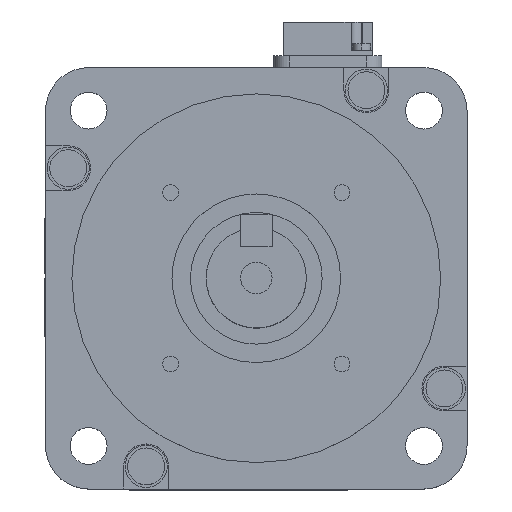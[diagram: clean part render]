
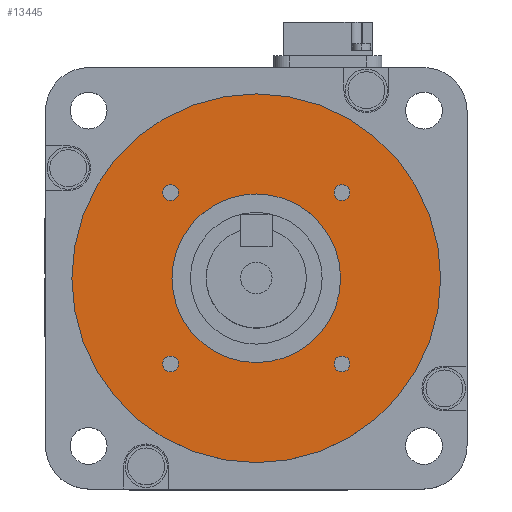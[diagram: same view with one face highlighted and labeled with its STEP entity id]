
A CAD part, top view. The second image highlights one B-rep face of the part: STEP entity #13445.
In plain terms, the highlighted planar face has unit normal (0, 0, 1).
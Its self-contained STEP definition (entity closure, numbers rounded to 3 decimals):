
#2191 = CARTESIAN_POINT ( 'NONE',  ( -14.763, -16.263, 3. ) ) ;
#2192 = DIRECTION ( 'NONE',  ( -1., 0., 0. ) ) ;
#2193 = DIRECTION ( 'NONE',  ( 0., 0., 1. ) ) ;
#2194 = CARTESIAN_POINT ( 'NONE',  ( -16.263, -16.263, 3. ) ) ;
#2195 = AXIS2_PLACEMENT_3D ( 'NONE', #2194, #2193, #2192 ) ;
#2196 = CIRCLE ( 'NONE', #2195, 1.5 ) ;
#2197 = CARTESIAN_POINT ( 'NONE',  ( -17.763, -16.263, 3. ) ) ;
#2219 = CARTESIAN_POINT ( 'NONE',  ( 17.763, -16.263, 3. ) ) ;
#2220 = DIRECTION ( 'NONE',  ( 0., -1., 0. ) ) ;
#2221 = DIRECTION ( 'NONE',  ( 0., 0., 1. ) ) ;
#2222 = CARTESIAN_POINT ( 'NONE',  ( 16.263, -16.263, 3. ) ) ;
#2223 = AXIS2_PLACEMENT_3D ( 'NONE', #2222, #2221, #2220 ) ;
#2224 = CIRCLE ( 'NONE', #2223, 1.5 ) ;
#2225 = CARTESIAN_POINT ( 'NONE',  ( 14.763, -16.263, 3. ) ) ;
#2271 = DIRECTION ( 'NONE',  ( 1., 0., 0. ) ) ;
#2272 = DIRECTION ( 'NONE',  ( 0., 0., 1. ) ) ;
#2273 = CARTESIAN_POINT ( 'NONE',  ( 16.263, 16.263, 3. ) ) ;
#2274 = AXIS2_PLACEMENT_3D ( 'NONE', #2273, #2272, #2271 ) ;
#2275 = CIRCLE ( 'NONE', #2274, 1.5 ) ;
#2276 = CARTESIAN_POINT ( 'NONE',  ( 17.763, 16.263, 3. ) ) ;
#2277 = CARTESIAN_POINT ( 'NONE',  ( 14.763, 16.263, 3. ) ) ;
#2306 = CARTESIAN_POINT ( 'NONE',  ( -14.763, 16.263, 3. ) ) ;
#2307 = DIRECTION ( 'NONE',  ( 0., 1., 0. ) ) ;
#2308 = DIRECTION ( 'NONE',  ( 0., 0., 1. ) ) ;
#2309 = CARTESIAN_POINT ( 'NONE',  ( -16.263, 16.263, 3. ) ) ;
#2310 = AXIS2_PLACEMENT_3D ( 'NONE', #2309, #2308, #2307 ) ;
#2311 = CIRCLE ( 'NONE', #2310, 1.5 ) ;
#2312 = CARTESIAN_POINT ( 'NONE',  ( -17.763, 16.263, 3. ) ) ;
#2497 = CARTESIAN_POINT ( 'NONE',  ( 35., 0., 3. ) ) ;
#2498 = CARTESIAN_POINT ( 'NONE',  ( -35., 0., 3. ) ) ;
#2499 = DIRECTION ( 'NONE',  ( -1., 0., 0. ) ) ;
#2500 = DIRECTION ( 'NONE',  ( 0., 0., -1. ) ) ;
#2501 = CARTESIAN_POINT ( 'NONE',  ( 0., 0., 3. ) ) ;
#2502 = AXIS2_PLACEMENT_3D ( 'NONE', #2501, #2500, #2499 ) ;
#2503 = CIRCLE ( 'NONE', #2502, 35. ) ;
#2527 = DIRECTION ( 'NONE',  ( -1., 0., 0. ) ) ;
#2528 = DIRECTION ( 'NONE',  ( 0., 0., -1. ) ) ;
#2529 = AXIS2_PLACEMENT_3D ( 'NONE', #2536, #2528, #2527 ) ;
#2530 = CIRCLE ( 'NONE', #2529, 16. ) ;
#2536 = CARTESIAN_POINT ( 'NONE',  ( 0., 0., 3. ) ) ;
#2674 = CARTESIAN_POINT ( 'NONE',  ( -16., 0., 3. ) ) ;
#2675 = CARTESIAN_POINT ( 'NONE',  ( 16., 0., 3. ) ) ;
#4707 = CARTESIAN_POINT ( 'NONE',  ( 16.263, -16.263, 3. ) ) ;
#4708 = DIRECTION ( 'NONE',  ( 1., 0., 0. ) ) ;
#4709 = DIRECTION ( 'NONE',  ( 0., 0., 1. ) ) ;
#4710 = CARTESIAN_POINT ( 'NONE',  ( 0., 35., 3. ) ) ;
#4711 = AXIS2_PLACEMENT_3D ( 'NONE', #4710, #4709, #4708 ) ;
#4712 = PLANE ( 'NONE',  #4711 ) ;
#4713 = FACE_OUTER_BOUND ( 'NONE', #13452, .T. ) ;
#4714 = FACE_BOUND ( 'NONE', #13459, .T. ) ;
#4715 = FACE_BOUND ( 'NONE', #13471, .T. ) ;
#4716 = FACE_BOUND ( 'NONE', #13428, .T. ) ;
#4717 = FACE_BOUND ( 'NONE', #13440, .T. ) ;
#4718 = FACE_BOUND ( 'NONE', #13450, .T. ) ;
#4730 = DIRECTION ( 'NONE',  ( -1., 0., 0. ) ) ;
#4731 = DIRECTION ( 'NONE',  ( 0., 0., 1. ) ) ;
#4732 = AXIS2_PLACEMENT_3D ( 'NONE', #4738, #4731, #4730 ) ;
#4733 = CIRCLE ( 'NONE', #4732, 1.5 ) ;
#4738 = CARTESIAN_POINT ( 'NONE',  ( -16.263, -16.263, 3. ) ) ;
#4743 = DIRECTION ( 'NONE',  ( 1., 0., 0. ) ) ;
#4744 = DIRECTION ( 'NONE',  ( 0., 0., 1. ) ) ;
#4745 = CARTESIAN_POINT ( 'NONE',  ( 16.263, 16.263, 3. ) ) ;
#4746 = AXIS2_PLACEMENT_3D ( 'NONE', #4745, #4744, #4743 ) ;
#4747 = CIRCLE ( 'NONE', #4746, 1.5 ) ;
#4753 = DIRECTION ( 'NONE',  ( -1., 0., 0. ) ) ;
#4754 = DIRECTION ( 'NONE',  ( 0., 0., -1. ) ) ;
#4755 = CARTESIAN_POINT ( 'NONE',  ( 0., 0., 3. ) ) ;
#4756 = AXIS2_PLACEMENT_3D ( 'NONE', #4755, #4754, #4753 ) ;
#4757 = CIRCLE ( 'NONE', #4756, 16. ) ;
#4768 = DIRECTION ( 'NONE',  ( 0., -1., 0. ) ) ;
#4769 = DIRECTION ( 'NONE',  ( 0., 0., 1. ) ) ;
#4770 = AXIS2_PLACEMENT_3D ( 'NONE', #4707, #4769, #4768 ) ;
#4771 = CIRCLE ( 'NONE', #4770, 1.5 ) ;
#4847 = DIRECTION ( 'NONE',  ( 0., 1., 0. ) ) ;
#4848 = DIRECTION ( 'NONE',  ( 0., 0., 1. ) ) ;
#4849 = CARTESIAN_POINT ( 'NONE',  ( -16.263, 16.263, 3. ) ) ;
#4850 = AXIS2_PLACEMENT_3D ( 'NONE', #4849, #4848, #4847 ) ;
#4851 = CIRCLE ( 'NONE', #4850, 1.5 ) ;
#4911 = CARTESIAN_POINT ( 'NONE',  ( 0., 0., 3. ) ) ;
#4966 = DIRECTION ( 'NONE',  ( -1., 0., 0. ) ) ;
#4967 = DIRECTION ( 'NONE',  ( 0., 0., -1. ) ) ;
#4968 = AXIS2_PLACEMENT_3D ( 'NONE', #4911, #4967, #4966 ) ;
#4969 = CIRCLE ( 'NONE', #4968, 35. ) ;
#8252 = VERTEX_POINT ( 'NONE', #2197 ) ;
#8254 = EDGE_CURVE ( 'NONE', #8252, #8255, #2196, .T. ) ;
#8255 = VERTEX_POINT ( 'NONE', #2191 ) ;
#8269 = VERTEX_POINT ( 'NONE', #2225 ) ;
#8271 = EDGE_CURVE ( 'NONE', #8269, #8272, #2224, .T. ) ;
#8272 = VERTEX_POINT ( 'NONE', #2219 ) ;
#8304 = VERTEX_POINT ( 'NONE', #2277 ) ;
#8306 = EDGE_CURVE ( 'NONE', #8304, #8307, #2275, .T. ) ;
#8307 = VERTEX_POINT ( 'NONE', #2276 ) ;
#8320 = VERTEX_POINT ( 'NONE', #2312 ) ;
#8322 = EDGE_CURVE ( 'NONE', #8320, #8323, #2311, .T. ) ;
#8323 = VERTEX_POINT ( 'NONE', #2306 ) ;
#8414 = EDGE_CURVE ( 'NONE', #8415, #8416, #2503, .T. ) ;
#8415 = VERTEX_POINT ( 'NONE', #2498 ) ;
#8416 = VERTEX_POINT ( 'NONE', #2497 ) ;
#8431 = EDGE_CURVE ( 'NONE', #8485, #8486, #2530, .T. ) ;
#8485 = VERTEX_POINT ( 'NONE', #2675 ) ;
#8486 = VERTEX_POINT ( 'NONE', #2674 ) ;
#13428 = EDGE_LOOP ( 'NONE', ( #13538, #13496 ) ) ;
#13433 = ORIENTED_EDGE ( 'NONE', *, *, #13434, .F. ) ;
#13434 = EDGE_CURVE ( 'NONE', #8255, #8252, #4733, .T. ) ;
#13435 = ORIENTED_EDGE ( 'NONE', *, *, #8254, .F. ) ;
#13440 = EDGE_LOOP ( 'NONE', ( #13433, #13435 ) ) ;
#13445 = ADVANCED_FACE ( 'NONE', ( #4718, #4717, #4716, #4715, #4714, #4713 ), #4712, .T. ) ;
#13446 = EDGE_CURVE ( 'NONE', #8272, #8269, #4771, .T. ) ;
#13447 = ORIENTED_EDGE ( 'NONE', *, *, #13446, .F. ) ;
#13449 = ORIENTED_EDGE ( 'NONE', *, *, #8271, .F. ) ;
#13450 = EDGE_LOOP ( 'NONE', ( #13447, #13449 ) ) ;
#13452 = EDGE_LOOP ( 'NONE', ( #13453, #13588 ) ) ;
#13453 = ORIENTED_EDGE ( 'NONE', *, *, #8414, .F. ) ;
#13459 = EDGE_LOOP ( 'NONE', ( #13460, #13461 ) ) ;
#13460 = ORIENTED_EDGE ( 'NONE', *, *, #13462, .T. ) ;
#13461 = ORIENTED_EDGE ( 'NONE', *, *, #8431, .T. ) ;
#13462 = EDGE_CURVE ( 'NONE', #8486, #8485, #4757, .T. ) ;
#13470 = ORIENTED_EDGE ( 'NONE', *, *, #8306, .F. ) ;
#13471 = EDGE_LOOP ( 'NONE', ( #13472, #13470 ) ) ;
#13472 = ORIENTED_EDGE ( 'NONE', *, *, #13473, .F. ) ;
#13473 = EDGE_CURVE ( 'NONE', #8307, #8304, #4747, .T. ) ;
#13496 = ORIENTED_EDGE ( 'NONE', *, *, #8322, .F. ) ;
#13538 = ORIENTED_EDGE ( 'NONE', *, *, #13540, .F. ) ;
#13540 = EDGE_CURVE ( 'NONE', #8323, #8320, #4851, .T. ) ;
#13587 = EDGE_CURVE ( 'NONE', #8416, #8415, #4969, .T. ) ;
#13588 = ORIENTED_EDGE ( 'NONE', *, *, #13587, .F. ) ;
